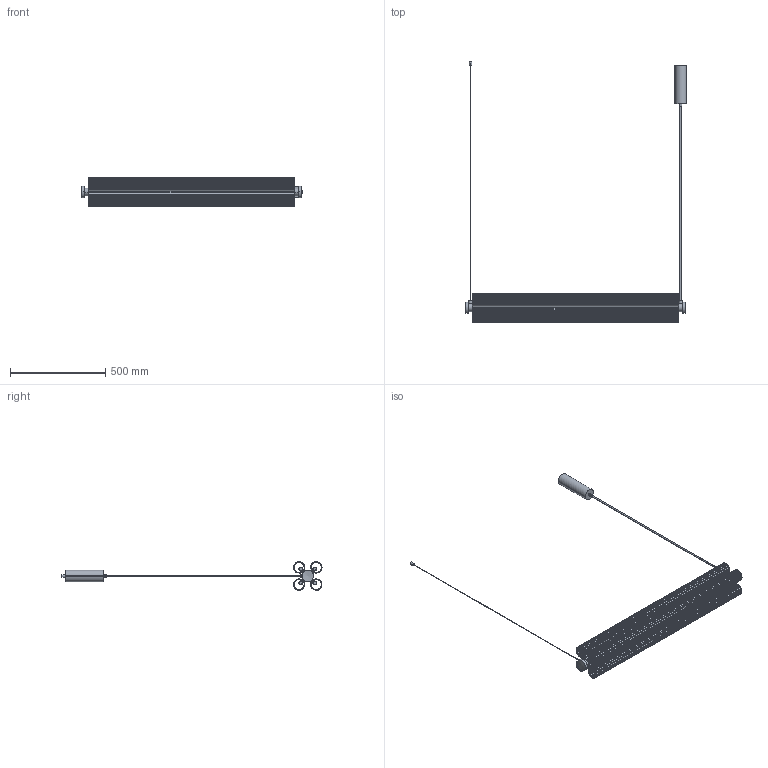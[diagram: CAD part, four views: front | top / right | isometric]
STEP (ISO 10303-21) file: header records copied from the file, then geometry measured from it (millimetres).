
FILE_DESCRIPTION (( 'STEP AP214' ), '1' );
FILE_NAME ('RYST_C1359.STEP', '2026-08-28T07:23:34', ( '' ), ( '' ), 'SwSTEP 2.0', 'SolidWorks 2023', '' );
FILE_SCHEMA (( 'AUTOMOTIVE_DESIGN' ));
Length unit declared in the file: millimetre
Products named in the file (1): RYST_C1359
Bounding box: 1156.03 x 1362.25 x 149.52 mm (x, y, z)
Surface area: 2910224.7 mm2 (no closed solid volume)
Topology: 0 solids, 20 shells, 1019 faces, 2727 edges, 1749 vertices
Faces by surface type: bspline 735, cylinder 276, plane 8
Entity records: 33067 total; most frequent: CARTESIAN_POINT 13846, ORIENTED_EDGE 5450, EDGE_CURVE 2727, DIRECTION 2006, VERTEX_POINT 1749, B_SPLINE_CURVE_WITH_KNOTS 1228, EDGE_LOOP 1067, FACE_OUTER_BOUND 1019
